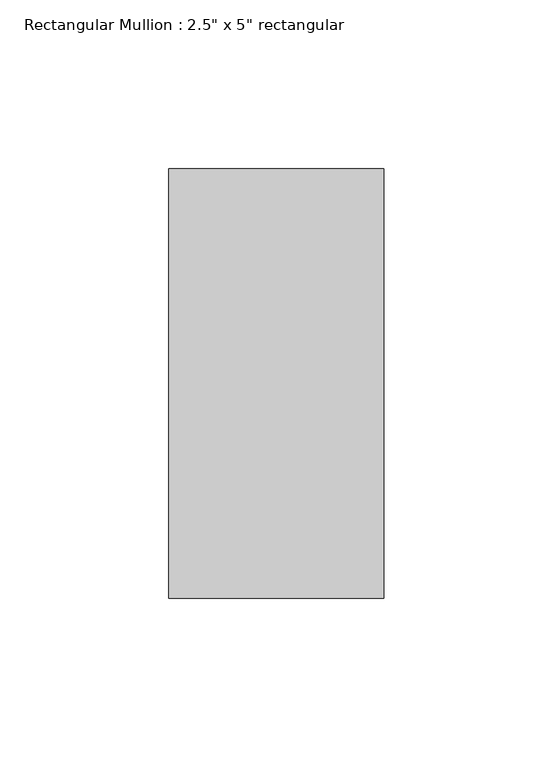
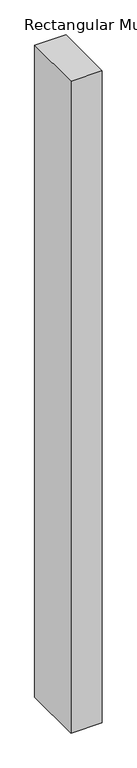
"""IFC4 building model written with IfcOpenShell, lengths in millimetres: member geometry."""

import ifcopenshell
import ifcopenshell.guid

model = None  # the IFC model being written
_history = None  # IfcOwnerHistory: only IFC2X3 demands one
_inside = {}  # id of a spatial element -> (the spatial element, [elements in it])
_under = {}  # id of a project, library or spatial element -> (it, [spatial elements below it])
_declared = {}  # id of a project -> (the project, [libraries it declares])
_typed = {}  # id of a type object -> (the type object, [elements of that type])
_made_of = {}  # id of a material, layer set ... -> (it, [elements and type objects made of it])


def new_model(schema):
    """Start an empty IFC model of exactly this schema.

    Asked for "IFC4X3", IfcOpenShell would pick the latest addendum, in which some entities
    have other attributes; the version numbers below select the first issue.
    IFC2X3 requires an IfcOwnerHistory on every rooted entity: one is made here for all.
    """
    global model, _history
    if schema == "IFC4X3":
        model = ifcopenshell.file(schema_version=(4, 3, 0, 0))
    else:
        model = ifcopenshell.file(schema=schema)
    _inside.clear()
    _under.clear()
    _declared.clear()
    _typed.clear()
    _made_of.clear()
    _history = None
    if model.schema == "IFC2X3":
        org = make("IfcOrganization", Name="unknown")
        user = make(
            "IfcPersonAndOrganization",
            ThePerson=make("IfcPerson", FamilyName="unknown"),
            TheOrganization=org,
        )
        app = make(
            "IfcApplication",
            ApplicationDeveloper=org,
            Version="unknown",
            ApplicationFullName="unknown",
            ApplicationIdentifier="unknown",
        )
        _history = make(
            "IfcOwnerHistory",
            OwningUser=user,
            OwningApplication=app,
            ChangeAction="ADDED",
            CreationDate=0,
        )
    return model


def make(cls, **values):
    """One entity of the class cls with the attributes given. An attribute that is None is left unset."""
    return model.create_entity(
        cls, **{name: value for name, value in values.items() if value is not None}
    )


def rooted(cls, **values):
    """An entity with a GlobalId (a new one), such as an element, a storey or a relation."""
    return make(cls, GlobalId=ifcopenshell.guid.new(), OwnerHistory=_history, **values)


def si_unit(unit_type, name, prefix=None):
    """IfcSIUnit, for example si_unit("LENGTHUNIT", "METRE", prefix="MILLI")."""
    return make("IfcSIUnit", UnitType=unit_type, Prefix=prefix, Name=name)


def assignment(units):
    """IfcUnitAssignment: the units of a project."""
    return None if units is None else make("IfcUnitAssignment", Units=units)


def point(xyz):
    """IfcCartesianPoint."""
    return None if xyz is None else make("IfcCartesianPoint", Coordinates=xyz)


def direction(xyz):
    """IfcDirection."""
    return None if xyz is None else make("IfcDirection", DirectionRatios=xyz)


def frame(location, z_axis=None, x_axis=None):
    """IfcAxis2Placement3D, a coordinate frame: its origin and axes. An axis left out is left unset."""
    return make(
        "IfcAxis2Placement3D",
        Location=point(location),
        Axis=direction(z_axis),
        RefDirection=direction(x_axis),
    )


def origin():
    """The frame at (0, 0, 0) with its axes left unset."""
    return frame((0.0, 0.0, 0.0))


def place(relative_to, where):
    """IfcLocalPlacement: puts the frame where relative to a parent placement (None: the world)."""
    return make(
        "IfcLocalPlacement", PlacementRelTo=relative_to, RelativePlacement=where
    )


def context(
    kind, dimensions, precision=None, world=None, true_north=None, identifier=None
):
    """IfcGeometricRepresentationContext, for example the 3D "Model" context."""
    return make(
        "IfcGeometricRepresentationContext",
        ContextIdentifier=identifier,
        ContextType=kind,
        CoordinateSpaceDimension=dimensions,
        Precision=precision,
        WorldCoordinateSystem=world,
        TrueNorth=true_north,
    )


def project(units=None, contexts=None):
    """IfcProject with its units and contexts."""
    return rooted(
        "IfcProject",
        Name="project",
        RepresentationContexts=contexts,
        UnitsInContext=assignment(units),
    )


def spatial(cls, under=None, at=None, **own):
    """A site, building, storey or space (cls), placed at a placement, below another one or the project."""
    s = rooted(cls, ObjectPlacement=at, **own)
    if under is not None:
        _under.setdefault(under.id(), (under, []))[1].append(s)
    return s


def polyline(points):
    """IfcPolyline through the points."""
    return make("IfcPolyline", Points=[point(p) for p in points])


def outline(outer, holes=None, kind="AREA"):
    """IfcArbitraryClosedProfileDef: a profile drawn as a closed curve; with holes, ...WithVoids."""
    if holes is None:
        return make("IfcArbitraryClosedProfileDef", ProfileType=kind, OuterCurve=outer)
    return make(
        "IfcArbitraryProfileDefWithVoids",
        ProfileType=kind,
        OuterCurve=outer,
        InnerCurves=holes,
    )


def extrude(swept, where, along, depth):
    """IfcExtrudedAreaSolid: the profile swept, set in the frame where, extruded along a direction by depth."""
    return make(
        "IfcExtrudedAreaSolid",
        SweptArea=swept,
        Position=where,
        ExtrudedDirection=direction(along),
        Depth=depth,
    )


def shape(context_of_items, identifier, shape_type, items):
    """IfcShapeRepresentation: the items that make up one representation, for example the "Body"."""
    return make(
        "IfcShapeRepresentation",
        ContextOfItems=context_of_items,
        RepresentationIdentifier=identifier,
        RepresentationType=shape_type,
        Items=items,
    )


def source(mapping_origin, context_of_items, identifier, shape_type, items):
    """IfcRepresentationMap: a shape defined once, which mapped items show again and again."""
    return make(
        "IfcRepresentationMap",
        MappingOrigin=mapping_origin,
        MappedRepresentation=shape(context_of_items, identifier, shape_type, items),
    )


def transform(
    local_origin,
    x_axis=None,
    y_axis=None,
    z_axis=None,
    scale=None,
    scale2=None,
    scale3=None,
    uniform=True,
):
    """IfcCartesianTransformationOperator3D, or its non-uniform kind. x_axis, y_axis, z_axis: its Axis1, 2, 3."""
    if uniform:
        return make(
            "IfcCartesianTransformationOperator3D",
            Axis1=direction(x_axis),
            Axis2=direction(y_axis),
            LocalOrigin=point(local_origin),
            Scale=scale,
            Axis3=direction(z_axis),
        )
    return make(
        "IfcCartesianTransformationOperator3DnonUniform",
        Axis1=direction(x_axis),
        Axis2=direction(y_axis),
        LocalOrigin=point(local_origin),
        Scale=scale,
        Axis3=direction(z_axis),
        Scale2=scale2,
        Scale3=scale3,
    )


def mapped(mapping_source, mapping_target):
    """IfcMappedItem: shows the shape of a source again, moved by a transform."""
    return make(
        "IfcMappedItem", MappingSource=mapping_source, MappingTarget=mapping_target
    )


def made_of(thing, what):
    """Note that an element or type object is made of a material, layer set ...; save() writes the relation."""
    if what is not None:
        _made_of.setdefault(what.id(), (what, []))[1].append(thing)
    return thing


def element(
    cls,
    number,
    at=None,
    inside=None,
    cuts=None,
    type_object=None,
    material=None,
    context=None,
    identifier="Body",
    shape_type=None,
    held_by="IfcProductDefinitionShape",
    body=None,
    shapes=None,
    **own,
):
    """One element of the class cls, such as IfcWall. Its Tag is "e" and its number.

    at: its placement. inside: the storey or other place that contains it. cuts: it is an
    opening in that element (IfcRelVoidsElement). A single representation is given by context,
    identifier, shape_type and body (its items); several are given by shapes. held_by: the class
    of the entity that holds the representations. save() writes the other relations.
    """
    e = rooted(cls, Tag="e%d" % number, ObjectPlacement=at, **own)
    if body is not None:
        shapes = [shape(context, identifier, shape_type, body)]
    if shapes is not None:
        e.Representation = make(held_by, Representations=shapes)
    if inside is not None:
        _inside.setdefault(inside.id(), (inside, []))[1].append(e)
    if cuts is not None:
        rooted(
            "IfcRelVoidsElement", RelatingBuildingElement=cuts, RelatedOpeningElement=e
        )
    if type_object is not None:
        _typed.setdefault(type_object.id(), (type_object, []))[1].append(e)
    return made_of(e, material)


def aggregate(whole, parts):
    """IfcRelAggregates: a whole, such as a stair, and the parts it consists of."""
    return rooted("IfcRelAggregates", RelatingObject=whole, RelatedObjects=parts)


def save(model, path):
    """Write the relations noted so far, then the file.

    IfcRelAggregates (storeys below a building ...), IfcRelContainedInSpatialStructure (elements
    in a storey), IfcRelDefinesByType, IfcRelAssociatesMaterial and IfcRelDeclares: one each for
    every whole, place, type object, material and project.
    """
    for whole, parts in _under.values():
        aggregate(whole, parts)
    for where, things in _inside.values():
        rooted(
            "IfcRelContainedInSpatialStructure",
            RelatedElements=things,
            RelatingStructure=where,
        )
    for kind, things in _typed.values():
        rooted("IfcRelDefinesByType", RelatedObjects=things, RelatingType=kind)
    for what, things in _made_of.values():
        rooted("IfcRelAssociatesMaterial", RelatedObjects=things, RelatingMaterial=what)
    for by, libraries in _declared.values():
        rooted("IfcRelDeclares", RelatingContext=by, RelatedDefinitions=libraries)
    model.write(path)


def member_8f51e5de(model_context):
    return source(origin(), model_context, "Body", "SweptSolid", [
        extrude(outline(polyline([(0.0, 50.8), (0.0, -76.2), (-63.5, -76.2), (-63.5, 50.8), (0.0, 50.8)])), frame((0.0, 0.0, -1396.4098848), z_axis=(0.0, 0.0, 1.0), x_axis=(1.0, 0.0, 0.0)), (0.0, 0.0, 1.0), 1396.4098848),
    ])


if __name__ == "__main__":
    model = new_model("IFC4")
    model_context = context("Model", 3, world=origin())
    ifc_project = project(units=[si_unit("LENGTHUNIT", "METRE", prefix="MILLI")], contexts=[model_context])
    site = spatial("IfcSite", under=ifc_project)
    building = spatial("IfcBuilding", under=site)
    placement = place(None, origin())
    member_shape = member_8f51e5de(model_context)
    element("IfcMember", 1, ObjectType="Rectangular Mullion : 2.5\" x 5\" rectangular", at=placement, inside=building, context=model_context, shape_type="MappedRepresentation", body=[
        mapped(member_shape, transform((0.0, 0.0, 0.0), x_axis=(1.0, 0.0, 0.0), y_axis=(0.0, 1.0, 0.0), z_axis=(0.0, 0.0, 1.0))),
    ])
    save(model, "model.ifc")
